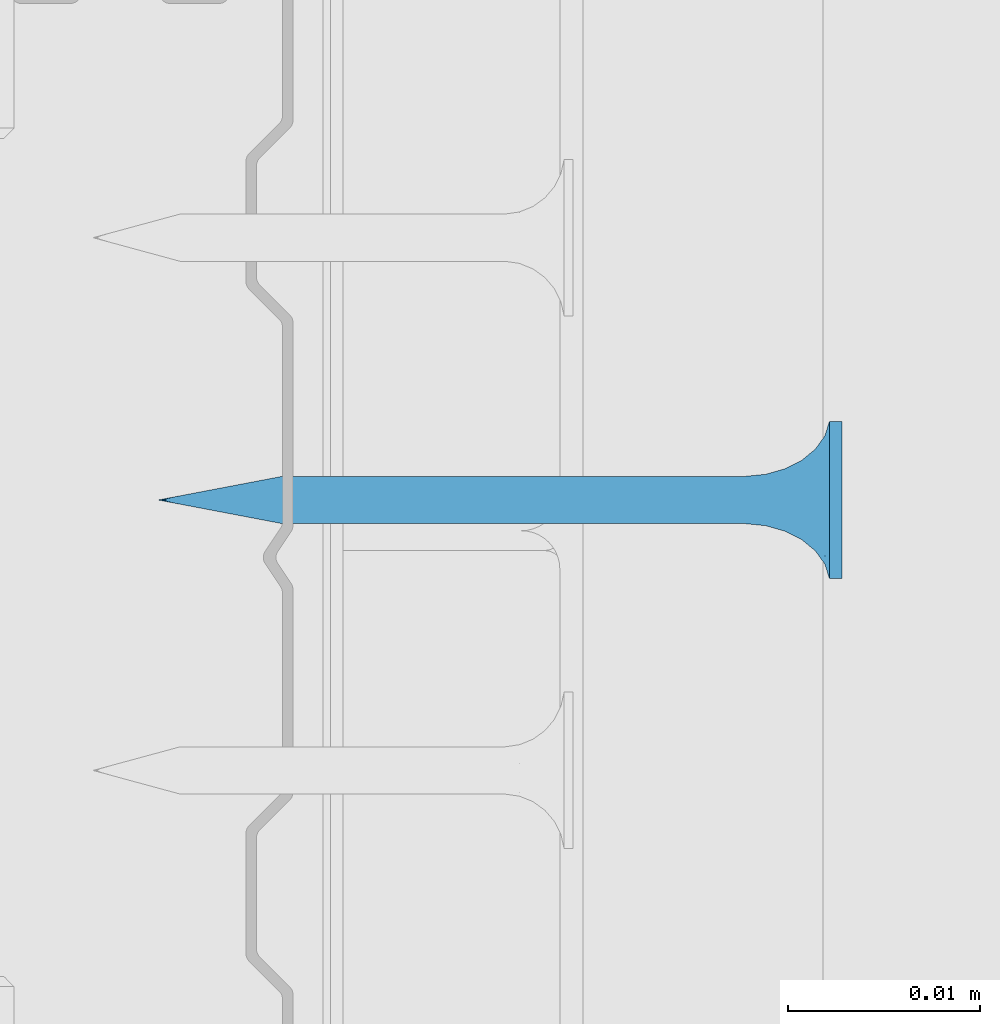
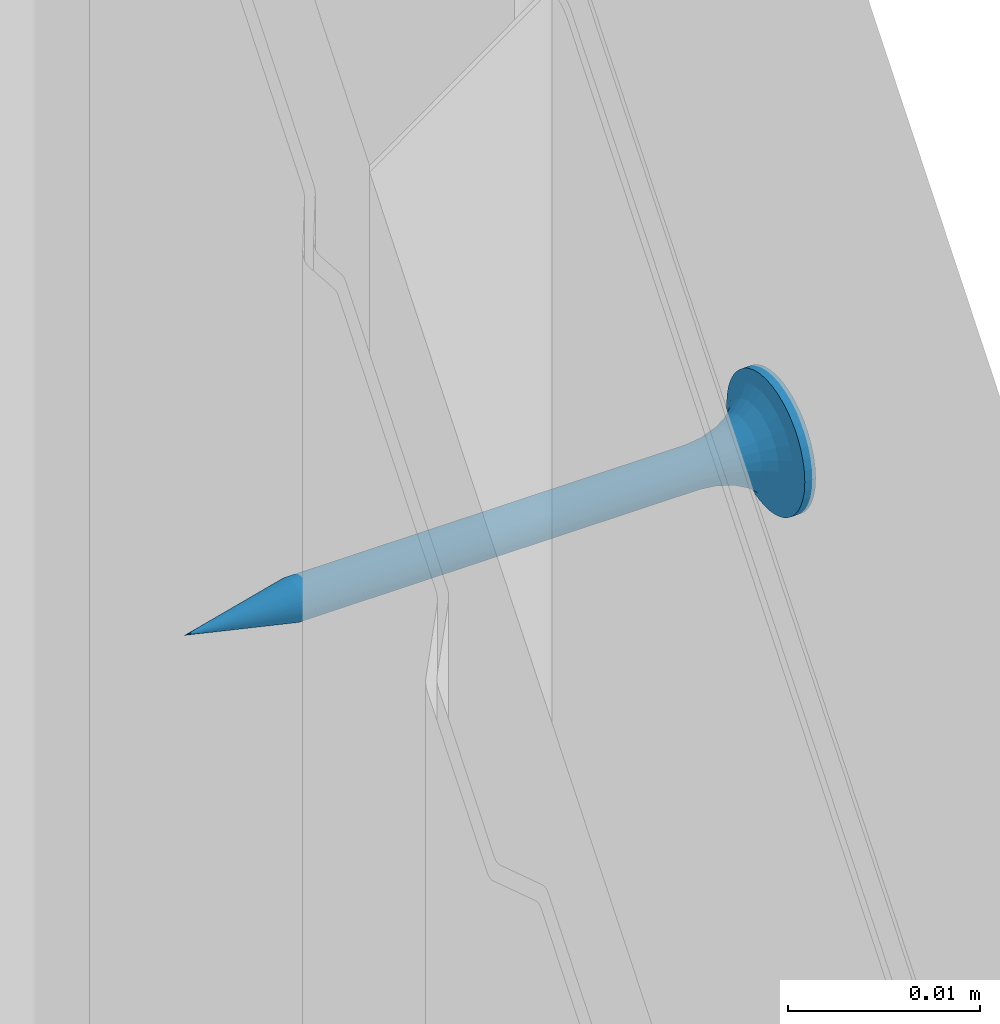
# One storey, part 16 of 62: 1 wall.
"""IFC2X3 building model written with IfcOpenShell, lengths in millimetres."""

from ifc_helpers import new_model, si_unit, frame, origin_with_axes, place, context, subcontext, project, spatial, faceted_brep, material, type_object, element, save


model = new_model("IFC2X3")

# Units and contexts
model_context = context("Model", 3, world=origin_with_axes())
body_context = subcontext(model_context, "Body", "Model", "MODEL_VIEW")
ifc_project = project(units=[si_unit("LENGTHUNIT", "METRE", prefix="MILLI"), si_unit("AREAUNIT", "SQUARE_METRE"), si_unit("VOLUMEUNIT", "CUBIC_METRE")], contexts=[model_context])

# Site, building, storey
site_placement = place(None, frame((2152.14102611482, -2015.0250894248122, 57.61556563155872), z_axis=(0.0, 0.0, 1.0), x_axis=(-1.1102230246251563e-16, 1.0, 0.0)))
site = spatial("IfcSite", under=ifc_project, at=site_placement, Name="Default Site", CompositionType="ELEMENT")
building_placement = place(site_placement, origin_with_axes())
building = spatial("IfcBuilding", under=site, at=building_placement, Name="Default Building", CompositionType="ELEMENT")
storey_placement = place(building_placement, origin_with_axes())
storey = spatial("IfcBuildingStorey", under=building, at=storey_placement, Name="Default Building Storey", CompositionType="ELEMENT", Elevation=57.61556563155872)

# Wall
ifc_material = material(Name="Default")
wall_type = type_object("IfcWallType", Name="Wkręt RIGIPS TN 35#44", PredefinedType="NOTDEFINED")
wall_placement = place(storey_placement, frame((2378.489176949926, 6748.439791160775, -146.93788946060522), z_axis=(0.0, 0.0, 1.0), x_axis=(1.0, 0.0, 0.0)))
element("IfcWall", 1, at=wall_placement, inside=storey, type_object=wall_type, material=ifc_material, Name="Wkręt RIGIPS TN 35", context=body_context, shape_type="Brep", body=[
    faceted_brep([(-141.48753293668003, -4832.598052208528, 555.1619773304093), (-141.48753293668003, -4833.259714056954, 555.1619773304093), (-141.5377465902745, -4833.259714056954, 555.8000000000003), (-141.5377465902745, -4832.598052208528, 555.8000000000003), (-141.33812900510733, -4832.598052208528, 554.5396649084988), (-141.33812900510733, -4833.259714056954, 554.5396649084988), (-141.09321328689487, -4832.598052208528, 553.948386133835), (-141.09321328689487, -4833.259714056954, 553.948386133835), (-140.75881656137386, -4832.598052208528, 553.4027002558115), (-140.75881656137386, -4833.259714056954, 553.4027002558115), (-140.34317265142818, -4833.259714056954, 552.9160436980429), (-140.45417279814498, -4832.598052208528, 553.0314906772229), (-139.8565160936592, -4833.259714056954, 552.5003997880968), (-140.1080097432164, -4832.598052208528, 552.6986613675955), (-139.72512626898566, -4832.598052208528, 552.4088260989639), (-139.31083021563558, -4833.259714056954, 552.1660030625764), (-139.31083021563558, -4832.598052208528, 552.1660030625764), (-138.71955144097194, -4833.259714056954, 551.9210873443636), (-138.87086516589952, -4832.598052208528, 551.9735585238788), (-138.41133029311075, -4832.598052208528, 551.8341602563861), (-138.0972390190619, -4833.259714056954, 551.7716834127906), (-137.9385961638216, -4832.598052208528, 551.7497405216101), (-137.45921634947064, -4833.259714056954, 551.7214697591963), (-137.45921634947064, -4832.598052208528, 551.7214697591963), (-136.82119367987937, -4832.598052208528, 551.7716834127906), (-136.82119367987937, -4833.259714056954, 551.7716834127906), (-136.19888125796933, -4832.598052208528, 551.9210873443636), (-136.19888125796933, -4833.259714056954, 551.9210873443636), (-135.6076024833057, -4832.598052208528, 552.1660030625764), (-135.6076024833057, -4833.259714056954, 552.1660030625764), (-135.06191660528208, -4832.598052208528, 552.5003997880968), (-135.06191660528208, -4833.259714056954, 552.5003997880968), (-134.57526004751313, -4832.598052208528, 552.9160436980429), (-134.57526004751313, -4833.259714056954, 552.9160436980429), (-134.1596161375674, -4832.598052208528, 553.4027002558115), (-134.1596161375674, -4833.259714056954, 553.4027002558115), (-133.8252194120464, -4832.598052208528, 553.948386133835), (-133.8252194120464, -4833.259714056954, 553.948386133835), (-133.58030369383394, -4832.598052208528, 554.5396649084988), (-133.58030369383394, -4833.259714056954, 554.5396649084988), (-133.3806861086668, -4833.259714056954, 555.8000000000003), (-133.3806861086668, -4832.598052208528, 555.8000000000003), (-133.43089976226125, -4832.598052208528, 556.4380226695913), (-133.43089976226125, -4833.259714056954, 556.4380226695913), (-133.43089976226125, -4833.259714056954, 555.1619773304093), (-133.43089976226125, -4832.598052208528, 555.1619773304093), (-133.58030369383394, -4832.598052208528, 557.0603350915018), (-133.58030369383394, -4833.259714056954, 557.0603350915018), (-133.8252194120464, -4832.598052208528, 557.6516138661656), (-133.8252194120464, -4833.259714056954, 557.6516138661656), (-134.1596161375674, -4832.598052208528, 558.1972997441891), (-134.1596161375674, -4833.259714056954, 558.1972997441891), (-134.57526004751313, -4832.598052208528, 558.6839563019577), (-134.57526004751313, -4833.259714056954, 558.6839563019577), (-135.06191660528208, -4832.598052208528, 559.0996002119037), (-135.06191660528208, -4833.259714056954, 559.0996002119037), (-135.6076024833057, -4832.598052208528, 559.4339969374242), (-135.6076024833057, -4833.259714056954, 559.4339969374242), (-136.19888125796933, -4832.598052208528, 559.678912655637), (-136.19888125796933, -4833.259714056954, 559.678912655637), (-136.82119367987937, -4832.598052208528, 559.82831658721), (-136.82119367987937, -4833.259714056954, 559.82831658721), (-137.45921634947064, -4832.598052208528, 559.8785302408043), (-137.45921634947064, -4833.259714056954, 559.8785302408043), (-138.0972390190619, -4832.598052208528, 559.82831658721), (-138.0972390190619, -4833.259714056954, 559.82831658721), (-138.71955144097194, -4832.598052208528, 559.678912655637), (-138.71955144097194, -4833.259714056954, 559.678912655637), (-139.31083021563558, -4832.598052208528, 559.4339969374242), (-139.31083021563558, -4833.259714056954, 559.4339969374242), (-139.8565160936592, -4832.598052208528, 559.0996002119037), (-139.8565160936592, -4833.259714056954, 559.0996002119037), (-140.34317265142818, -4832.598052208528, 558.6839563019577), (-140.34317265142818, -4833.259714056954, 558.6839563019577), (-140.75881656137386, -4832.598052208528, 558.1972997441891), (-140.75881656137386, -4833.259714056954, 558.1972997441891), (-141.09321328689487, -4832.598052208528, 557.6516138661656), (-141.09321328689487, -4833.259714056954, 557.6516138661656), (-141.33812900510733, -4832.598052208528, 557.0603350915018), (-141.33812900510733, -4833.259714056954, 557.0603350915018), (-141.48753293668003, -4832.598052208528, 556.4380226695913), (-141.48753293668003, -4833.259714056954, 556.4380226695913), (-137.65172779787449, -4828.2062944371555, 554.5845305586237), (-137.45921634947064, -4828.2062944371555, 554.5693795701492), (-137.8060615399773, -4829.281368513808, 554.5055561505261), (-137.45921634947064, -4829.281368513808, 554.4598930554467), (-137.83949898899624, -4828.2062944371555, 554.6296104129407), (-138.12926982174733, -4829.281368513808, 554.6394333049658), (-138.01790634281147, -4828.2062944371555, 554.7035091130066), (-138.1825568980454, -4828.2062944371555, 554.8044072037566), (-138.40681506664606, -4829.281368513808, 554.8524012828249), (-138.3293964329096, -4828.2062944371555, 554.9298199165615), (-138.45480914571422, -4828.2062944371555, 555.0766594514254), (-138.6197830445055, -4829.281368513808, 555.1299465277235), (-138.5557072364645, -4828.2062944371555, 555.2413100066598), (-138.753660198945, -4829.281368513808, 555.4531548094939), (-138.62960593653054, -4828.2062944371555, 555.4197173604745), (-138.67468579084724, -4828.2062944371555, 555.6074885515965), (-138.79932329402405, -4829.281368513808, 555.7999999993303), (-138.68983677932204, -4828.2062944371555, 555.8000000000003), (-138.67468579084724, -4828.2062944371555, 555.9925114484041), (-138.753660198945, -4829.281368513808, 556.1468451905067), (-138.62960593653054, -4828.2062944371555, 556.1802826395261), (-138.6197830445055, -4829.281368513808, 556.4700534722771), (-138.5557072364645, -4828.2062944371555, 556.3586899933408), (-138.45480914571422, -4828.2062944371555, 556.5233405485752), (-138.40681506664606, -4829.281368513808, 556.7475987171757), (-138.3293964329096, -4828.2062944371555, 556.670180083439), (-138.1825568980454, -4828.2062944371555, 556.795592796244), (-138.12926982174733, -4829.281368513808, 556.9605666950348), (-138.01790634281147, -4828.2062944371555, 556.896490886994), (-137.8060615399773, -4829.281368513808, 557.0944438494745), (-137.83949898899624, -4828.2062944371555, 556.9703895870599), (-137.65172779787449, -4828.2062944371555, 557.0154694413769), (-137.45921634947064, -4829.281368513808, 557.1401069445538), (-137.45921634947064, -4828.2062944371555, 557.0306204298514), (-137.26670490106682, -4828.2062944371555, 557.0154694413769), (-137.11237115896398, -4829.281368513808, 557.0944438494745), (-137.07893370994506, -4828.2062944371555, 556.9703895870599), (-136.78916287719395, -4829.281368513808, 556.9605666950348), (-136.9005263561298, -4828.2062944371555, 556.896490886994), (-136.7358758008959, -4828.2062944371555, 556.795592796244), (-136.5116176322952, -4829.281368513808, 556.7475987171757), (-136.58903626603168, -4828.2062944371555, 556.670180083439), (-136.46362355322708, -4828.2062944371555, 556.5233405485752), (-136.2986496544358, -4829.281368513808, 556.4700534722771), (-136.36272546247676, -4828.2062944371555, 556.3586899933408), (-136.16477249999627, -4829.281368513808, 556.1468451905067), (-136.28882676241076, -4828.2062944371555, 556.1802826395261), (-136.24374690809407, -4828.2062944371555, 555.9925114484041), (-136.11910940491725, -4829.281368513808, 555.7999999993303), (-136.22859591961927, -4828.2062944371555, 555.8000000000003), (-136.24374690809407, -4828.2062944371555, 555.6074885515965), (-136.16477249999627, -4829.281368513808, 555.4531548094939), (-136.28882676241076, -4828.2062944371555, 555.4197173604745), (-136.2986496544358, -4829.281368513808, 555.1299465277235), (-136.36272546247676, -4828.2062944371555, 555.2413100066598), (-136.46362355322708, -4828.2062944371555, 555.0766594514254), (-136.5116176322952, -4829.281368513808, 554.8524012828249), (-136.58903626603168, -4828.2062944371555, 554.9298199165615), (-136.7358758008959, -4828.2062944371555, 554.8044072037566), (-136.78916287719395, -4829.281368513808, 554.6394333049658), (-136.9005263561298, -4828.2062944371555, 554.7035091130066), (-137.11237115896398, -4829.281368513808, 554.5055561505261), (-137.07893370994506, -4828.2062944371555, 554.6296104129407), (-137.26670490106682, -4828.2062944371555, 554.5845305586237), (-137.45921634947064, -4830.288222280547, 554.1737111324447), (-137.88013087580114, -4830.288222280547, 554.2291255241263), (-138.2723607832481, -4830.288222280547, 554.3915925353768), (-138.60917621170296, -4830.288222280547, 554.6500401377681), (-138.8676238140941, -4830.288222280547, 554.9868555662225), (-139.03009082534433, -4830.288222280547, 555.37908547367), (-139.08550521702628, -4830.288222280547, 555.7999999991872), (-139.03009082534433, -4830.288222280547, 556.2209145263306), (-138.8676238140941, -4830.288222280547, 556.6131444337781), (-138.60917621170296, -4830.288222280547, 556.9499598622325), (-138.2723607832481, -4830.288222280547, 557.2084074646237), (-137.88013087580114, -4830.288222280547, 557.3708744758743), (-137.45921634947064, -4830.288222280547, 557.4262888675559), (-137.03830182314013, -4830.288222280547, 557.3708744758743), (-136.64607191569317, -4830.288222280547, 557.2084074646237), (-136.30925648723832, -4830.288222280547, 556.9499598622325), (-136.05080888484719, -4830.288222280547, 556.6131444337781), (-135.88834187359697, -4830.288222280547, 556.2209145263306), (-135.832927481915, -4830.288222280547, 555.7999999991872), (-135.88834187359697, -4830.288222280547, 555.37908547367), (-136.05080888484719, -4830.288222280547, 554.9868555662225), (-136.30925648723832, -4830.288222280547, 554.6500401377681), (-136.64607191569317, -4830.288222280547, 554.3915925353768), (-137.03830182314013, -4830.288222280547, 554.2291255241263), (-137.45921634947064, -4831.168773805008, 553.7273430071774), (-137.99565943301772, -4831.168773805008, 553.7979670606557), (-138.49554484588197, -4831.168773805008, 554.0050264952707), (-138.92480608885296, -4831.168773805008, 554.334410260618), (-139.25418985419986, -4831.168773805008, 554.7636715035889), (-139.46124928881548, -4831.168773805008, 555.2635569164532), (-139.53187334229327, -4831.168773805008, 555.7999999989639), (-139.46124928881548, -4831.168773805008, 556.3364430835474), (-139.25418985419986, -4831.168773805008, 556.8363284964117), (-138.92480608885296, -4831.168773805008, 557.2655897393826), (-138.49554484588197, -4831.168773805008, 557.5949735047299), (-137.99565943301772, -4831.168773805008, 557.8020329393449), (-137.45921634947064, -4831.168773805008, 557.8726569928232), (-136.92277326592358, -4831.168773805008, 557.8020329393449), (-136.42288785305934, -4831.168773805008, 557.5949735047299), (-135.9936266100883, -4831.168773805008, 557.2655897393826), (-135.6642428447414, -4831.168773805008, 556.8363284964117), (-135.45718341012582, -4831.168773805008, 556.3364430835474), (-135.386559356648, -4831.168773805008, 555.7999999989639), (-135.45718341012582, -4831.168773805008, 555.2635569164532), (-135.6642428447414, -4831.168773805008, 554.7636715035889), (-135.9936266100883, -4831.168773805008, 554.334410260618), (-136.42288785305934, -4831.168773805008, 554.0050264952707), (-136.92277326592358, -4831.168773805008, 553.7979670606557), (-137.45921634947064, -4831.872222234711, 553.1465392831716), (-138.14598252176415, -4831.872222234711, 553.2369539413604), (-138.78594670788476, -4831.872222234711, 553.5020355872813), (-139.33549641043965, -4831.872222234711, 553.923719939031), (-139.75718076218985, -4831.872222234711, 554.473269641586), (-140.02226240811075, -4831.872222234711, 555.1132338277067), (-140.11267706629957, -4831.872222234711, 555.7999999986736), (-140.02226240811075, -4831.872222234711, 556.4867661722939), (-139.75718076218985, -4831.872222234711, 557.1267303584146), (-139.33549641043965, -4831.872222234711, 557.6762800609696), (-138.78594670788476, -4831.872222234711, 558.0979644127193), (-138.14598252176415, -4831.872222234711, 558.3630460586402), (-137.45921634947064, -4831.872222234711, 558.453460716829), (-136.77245017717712, -4831.872222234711, 558.3630460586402), (-136.13248599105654, -4831.872222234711, 558.0979644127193), (-135.58293628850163, -4831.872222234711, 557.6762800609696), (-135.16125193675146, -4831.872222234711, 557.1267303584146), (-134.89617029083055, -4831.872222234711, 556.4867661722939), (-134.8057556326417, -4831.872222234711, 555.7999999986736), (-134.89617029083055, -4831.872222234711, 555.1132338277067), (-135.16125193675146, -4831.872222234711, 554.473269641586), (-135.58293628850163, -4831.872222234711, 553.923719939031), (-136.13248599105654, -4831.872222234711, 553.5020355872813), (-136.77245017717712, -4831.872222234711, 553.2369539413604), (-137.45921634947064, -4832.357990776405, 552.4648055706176), (-138.3224281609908, -4832.357990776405, 552.5784495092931), (-139.12681356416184, -4832.357990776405, 552.9116369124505), (-139.8175549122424, -4832.357990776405, 553.4416614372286), (-140.34757943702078, -4832.357990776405, 554.132402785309), (-140.680766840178, -4832.357990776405, 554.9367881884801), (-140.79441077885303, -4832.357990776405, 555.7999999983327), (-140.680766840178, -4832.357990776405, 556.6632118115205), (-140.34757943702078, -4832.357990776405, 557.4675972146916), (-139.8175549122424, -4832.357990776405, 558.158338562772), (-139.12681356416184, -4832.357990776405, 558.6883630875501), (-138.3224281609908, -4832.357990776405, 559.0215504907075), (-137.45921634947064, -4832.357990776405, 559.135194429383), (-136.5960045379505, -4832.357990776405, 559.0215504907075), (-135.79161913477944, -4832.357990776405, 558.6883630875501), (-135.10087778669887, -4832.357990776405, 558.158338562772), (-134.5708532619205, -4832.357990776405, 557.4675972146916), (-134.23766585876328, -4832.357990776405, 556.6632118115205), (-134.12402192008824, -4832.357990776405, 555.7999999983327), (-134.23766585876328, -4832.357990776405, 554.9367881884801), (-134.5708532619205, -4832.357990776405, 554.132402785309), (-135.10087778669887, -4832.357990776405, 553.4416614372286), (-135.79161913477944, -4832.357990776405, 552.9116369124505), (-136.5960045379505, -4832.357990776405, 552.5784495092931), (-138.67468579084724, -4804.093757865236, 555.6074885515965), (-138.68983677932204, -4804.093757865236, 555.8000000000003), (-138.62960593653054, -4804.093757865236, 555.4197173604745), (-138.5557072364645, -4804.093757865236, 555.2413100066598), (-138.45480914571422, -4804.093757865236, 555.0766594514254), (-138.3293964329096, -4804.093757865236, 554.9298199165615), (-138.1825568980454, -4804.093757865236, 554.8044072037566), (-138.01790634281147, -4804.093757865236, 554.7035091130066), (-137.83949898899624, -4804.093757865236, 554.6296104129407), (-137.65172779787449, -4804.093757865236, 554.5845305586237), (-137.45921634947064, -4804.093757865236, 554.5693795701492), (-137.26670490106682, -4804.093757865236, 554.5845305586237), (-137.07893370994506, -4804.093757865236, 554.6296104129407), (-136.9005263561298, -4804.093757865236, 554.7035091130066), (-136.7358758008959, -4804.093757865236, 554.8044072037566), (-136.58903626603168, -4804.093757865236, 554.9298199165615), (-136.46362355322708, -4804.093757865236, 555.0766594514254), (-136.36272546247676, -4804.093757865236, 555.2413100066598), (-136.28882676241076, -4804.093757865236, 555.4197173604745), (-136.22859591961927, -4804.093757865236, 555.8000000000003), (-136.24374690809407, -4804.093757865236, 555.9925114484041), (-136.24374690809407, -4804.093757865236, 555.6074885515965), (-136.28882676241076, -4804.093757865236, 556.1802826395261), (-136.36272546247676, -4804.093757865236, 556.3586899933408), (-136.46362355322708, -4804.093757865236, 556.5233405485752), (-136.58903626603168, -4804.093757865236, 556.670180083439), (-136.7358758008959, -4804.093757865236, 556.795592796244), (-136.9005263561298, -4804.093757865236, 556.896490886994), (-137.07893370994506, -4804.093757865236, 556.9703895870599), (-137.26670490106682, -4804.093757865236, 557.0154694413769), (-137.45921634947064, -4804.093757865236, 557.0306204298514), (-137.65172779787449, -4804.093757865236, 557.0154694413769), (-137.83949898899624, -4804.093757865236, 556.9703895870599), (-138.01790634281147, -4804.093757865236, 556.896490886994), (-138.1825568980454, -4804.093757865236, 556.795592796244), (-138.3293964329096, -4804.093757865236, 556.670180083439), (-138.45480914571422, -4804.093757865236, 556.5233405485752), (-138.5557072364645, -4804.093757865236, 556.3586899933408), (-138.62960593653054, -4804.093757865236, 556.1802826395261), (-138.67468579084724, -4804.093757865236, 555.9925114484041), (-137.45921634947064, -4797.627062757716, 555.8000000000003), (-139.95921629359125, -4833.259714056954, 555.2999999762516), (-139.95921629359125, -4833.259714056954, 556.300000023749), (-137.95921637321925, -4833.259714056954, 556.300000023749), (-137.95921637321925, -4833.259714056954, 558.2999999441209), (-136.95921632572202, -4833.259714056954, 558.2999999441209), (-136.95921632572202, -4833.259714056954, 556.300000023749), (-134.95921640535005, -4833.259714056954, 556.300000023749), (-134.95921640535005, -4833.259714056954, 555.2999999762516), (-136.95921632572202, -4833.259714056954, 555.2999999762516), (-136.95921632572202, -4833.259714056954, 553.3000000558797), (-137.95921637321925, -4833.259714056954, 553.3000000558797), (-137.95921637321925, -4833.259714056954, 555.2999999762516), (-136.95921632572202, -4832.888378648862, 558.2999999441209), (-137.95921637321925, -4832.888378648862, 558.2999999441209), (-137.95921637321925, -4832.888378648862, 556.300000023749), (-139.95921629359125, -4832.888378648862, 556.300000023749), (-139.95921629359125, -4832.888378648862, 555.2999999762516), (-137.95921637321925, -4832.888378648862, 555.2999999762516), (-137.95921637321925, -4832.888378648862, 553.3000000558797), (-136.95921632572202, -4832.888378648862, 553.3000000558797), (-136.95921632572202, -4832.888378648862, 555.2999999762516), (-134.95921640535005, -4832.888378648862, 555.2999999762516), (-134.95921640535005, -4832.888378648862, 556.300000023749), (-136.95921632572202, -4832.888378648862, 556.300000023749)], [[[0, 1, 2, 3]], [[1, 0, 4, 5]], [[5, 4, 6, 7]], [[8, 9, 7, 6]], [[8, 10, 9]], [[8, 11, 10]], [[12, 11, 13]], [[12, 10, 11]], [[13, 14, 12]], [[14, 15, 12]], [[14, 16, 15]], [[17, 16, 18]], [[17, 15, 16]], [[18, 19, 17]], [[20, 19, 21]], [[20, 17, 19]], [[21, 22, 20]], [[21, 23, 22]], [[24, 25, 22, 23]], [[25, 24, 26, 27]], [[27, 26, 28, 29]], [[30, 31, 29, 28]], [[31, 30, 32, 33]], [[34, 35, 33, 32]], [[35, 34, 36, 37]], [[37, 36, 38, 39]], [[40, 41, 42, 43]], [[44, 45, 41, 40]], [[45, 44, 39, 38]], [[43, 42, 46, 47]], [[47, 46, 48, 49]], [[50, 51, 49, 48]], [[51, 50, 52, 53]], [[54, 55, 53, 52]], [[55, 54, 56, 57]], [[57, 56, 58, 59]], [[60, 61, 59, 58]], [[61, 60, 62, 63]], [[64, 65, 63, 62]], [[65, 64, 66, 67]], [[67, 66, 68, 69]], [[70, 71, 69, 68]], [[71, 70, 72, 73]], [[74, 75, 73, 72]], [[75, 74, 76, 77]], [[77, 76, 78, 79]], [[80, 81, 79, 78]], [[81, 80, 3, 2]], [[82, 83, 84]], [[83, 85, 84]], [[84, 86, 82]], [[84, 87, 88, 86]], [[89, 88, 87]], [[87, 90, 89]], [[90, 91, 89]], [[92, 91, 93]], [[91, 90, 93]], [[93, 94, 92]], [[93, 95, 96, 94]], [[97, 96, 95]], [[95, 98, 97]], [[98, 99, 97]], [[100, 99, 101]], [[99, 98, 101]], [[101, 102, 100]], [[101, 103, 104, 102]], [[105, 104, 103]], [[103, 106, 105]], [[106, 107, 105]], [[108, 107, 109]], [[107, 106, 109]], [[109, 110, 108]], [[109, 111, 112, 110]], [[113, 112, 111]], [[111, 114, 113]], [[114, 115, 113]], [[116, 115, 117]], [[115, 114, 117]], [[117, 118, 116]], [[117, 119, 120, 118]], [[121, 120, 119]], [[119, 122, 121]], [[122, 123, 121]], [[124, 123, 125]], [[123, 122, 125]], [[125, 126, 124]], [[125, 127, 128, 126]], [[129, 128, 127]], [[127, 130, 129]], [[130, 131, 129]], [[132, 131, 133]], [[131, 130, 133]], [[133, 134, 132]], [[133, 135, 136, 134]], [[137, 136, 135]], [[135, 138, 137]], [[138, 139, 137]], [[140, 139, 141]], [[139, 138, 141]], [[141, 142, 140]], [[141, 143, 144, 142]], [[145, 144, 143]], [[143, 85, 145]], [[85, 83, 145]], [[146, 147, 84, 85]], [[84, 147, 148, 87]], [[87, 148, 149, 90]], [[90, 149, 150, 93]], [[93, 150, 151, 95]], [[95, 151, 152, 98]], [[98, 152, 153, 101]], [[101, 153, 154, 103]], [[103, 154, 155, 106]], [[106, 155, 156, 109]], [[109, 156, 157, 111]], [[111, 157, 158, 114]], [[114, 158, 159, 117]], [[117, 159, 160, 119]], [[119, 160, 161, 122]], [[122, 161, 162, 125]], [[125, 162, 163, 127]], [[127, 163, 164, 130]], [[130, 164, 165, 133]], [[133, 165, 166, 135]], [[135, 166, 167, 138]], [[138, 167, 168, 141]], [[141, 168, 169, 143]], [[143, 169, 146, 85]], [[170, 171, 147, 146]], [[147, 171, 172, 148]], [[148, 172, 173, 149]], [[149, 173, 174, 150]], [[150, 174, 175, 151]], [[151, 175, 176, 152]], [[152, 176, 177, 153]], [[153, 177, 178, 154]], [[154, 178, 179, 155]], [[155, 179, 180, 156]], [[156, 180, 181, 157]], [[157, 181, 182, 158]], [[158, 182, 183, 159]], [[159, 183, 184, 160]], [[160, 184, 185, 161]], [[161, 185, 186, 162]], [[162, 186, 187, 163]], [[163, 187, 188, 164]], [[164, 188, 189, 165]], [[165, 189, 190, 166]], [[166, 190, 191, 167]], [[167, 191, 192, 168]], [[168, 192, 193, 169]], [[169, 193, 170, 146]], [[194, 195, 171, 170]], [[171, 195, 196, 172]], [[172, 196, 197, 173]], [[173, 197, 198, 174]], [[174, 198, 199, 175]], [[175, 199, 200, 176]], [[176, 200, 201, 177]], [[177, 201, 202, 178]], [[178, 202, 203, 179]], [[179, 203, 204, 180]], [[180, 204, 205, 181]], [[181, 205, 206, 182]], [[182, 206, 207, 183]], [[183, 207, 208, 184]], [[184, 208, 209, 185]], [[185, 209, 210, 186]], [[186, 210, 211, 187]], [[187, 211, 212, 188]], [[188, 212, 213, 189]], [[189, 213, 214, 190]], [[190, 214, 215, 191]], [[191, 215, 216, 192]], [[192, 216, 217, 193]], [[193, 217, 194, 170]], [[21, 19, 218]], [[19, 219, 218]], [[218, 23, 21]], [[218, 219, 195, 194]], [[18, 16, 219]], [[16, 220, 219]], [[219, 19, 18]], [[195, 219, 220, 196]], [[13, 11, 221]], [[14, 13, 220]], [[13, 221, 220]], [[220, 16, 14]], [[196, 220, 221, 197]], [[8, 6, 222]], [[222, 221, 8]], [[221, 11, 8]], [[197, 221, 222, 198]], [[4, 223, 222, 6]], [[198, 222, 223, 199]], [[0, 3, 223]], [[3, 224, 223]], [[223, 4, 0]], [[199, 223, 224, 200]], [[80, 78, 225]], [[225, 224, 80]], [[224, 3, 80]], [[200, 224, 225, 201]], [[78, 76, 226, 225]], [[201, 225, 226, 202]], [[74, 72, 226]], [[72, 227, 226]], [[226, 76, 74]], [[202, 226, 227, 203]], [[70, 68, 228]], [[228, 227, 70]], [[227, 72, 70]], [[203, 227, 228, 204]], [[68, 66, 229, 228]], [[204, 228, 229, 205]], [[64, 62, 229]], [[62, 230, 229]], [[229, 66, 64]], [[205, 229, 230, 206]], [[60, 58, 231]], [[231, 230, 60]], [[230, 62, 60]], [[206, 230, 231, 207]], [[58, 56, 232, 231]], [[207, 231, 232, 208]], [[54, 52, 232]], [[52, 233, 232]], [[232, 56, 54]], [[208, 232, 233, 209]], [[50, 48, 234]], [[234, 233, 50]], [[233, 52, 50]], [[209, 233, 234, 210]], [[48, 46, 235, 234]], [[210, 234, 235, 211]], [[42, 41, 235]], [[41, 236, 235]], [[235, 46, 42]], [[211, 235, 236, 212]], [[45, 38, 237]], [[237, 236, 45]], [[236, 41, 45]], [[212, 236, 237, 213]], [[36, 238, 237, 38]], [[213, 237, 238, 214]], [[34, 32, 238]], [[32, 239, 238]], [[238, 36, 34]], [[214, 238, 239, 215]], [[30, 28, 240]], [[240, 239, 30]], [[239, 32, 30]], [[215, 239, 240, 216]], [[26, 241, 240, 28]], [[216, 240, 241, 217]], [[217, 241, 218, 194]], [[24, 23, 241]], [[23, 218, 241]], [[241, 26, 24]], [[242, 97, 99, 243]], [[97, 242, 244, 96]], [[96, 244, 245, 94]], [[246, 92, 94, 245]], [[92, 246, 247, 91]], [[248, 89, 91, 247]], [[89, 248, 249, 88]], [[88, 249, 250, 86]], [[251, 82, 86, 250]], [[82, 251, 252, 83]], [[253, 145, 83, 252]], [[145, 253, 254, 144]], [[144, 254, 255, 142]], [[256, 140, 142, 255]], [[140, 256, 257, 139]], [[258, 137, 139, 257]], [[137, 258, 259, 136]], [[136, 259, 260, 134]], [[131, 261, 262, 129]], [[132, 263, 261, 131]], [[263, 132, 134, 260]], [[129, 262, 264, 128]], [[128, 264, 265, 126]], [[266, 124, 126, 265]], [[124, 266, 267, 123]], [[268, 121, 123, 267]], [[121, 268, 269, 120]], [[120, 269, 270, 118]], [[271, 116, 118, 270]], [[116, 271, 272, 115]], [[273, 113, 115, 272]], [[113, 273, 274, 112]], [[112, 274, 275, 110]], [[276, 108, 110, 275]], [[108, 276, 277, 107]], [[278, 105, 107, 277]], [[105, 278, 279, 104]], [[104, 279, 280, 102]], [[281, 100, 102, 280]], [[100, 281, 243, 99]], [[282, 244, 242]], [[242, 243, 282]], [[282, 245, 244]], [[282, 247, 246]], [[246, 245, 282]], [[282, 249, 248]], [[248, 247, 282]], [[282, 250, 249]], [[282, 252, 251]], [[251, 250, 282]], [[282, 254, 253]], [[253, 252, 282]], [[282, 255, 254]], [[282, 257, 256]], [[256, 255, 282]], [[282, 259, 258]], [[258, 257, 282]], [[282, 260, 259]], [[282, 261, 263]], [[263, 260, 282]], [[282, 264, 262]], [[262, 261, 282]], [[282, 265, 264]], [[282, 267, 266]], [[266, 265, 282]], [[282, 269, 268]], [[268, 267, 282]], [[282, 270, 269]], [[282, 272, 271]], [[271, 270, 282]], [[282, 274, 273]], [[273, 272, 282]], [[282, 275, 274]], [[282, 277, 276]], [[276, 275, 282]], [[282, 279, 278]], [[278, 277, 282]], [[282, 280, 279]], [[282, 243, 281]], [[281, 280, 282]], [[75, 77, 79, 81, 2, 1, 5, 7, 9, 10, 12, 15, 17, 20, 22, 25, 27, 29, 31, 33, 35, 37, 39, 44, 40, 43, 47, 49, 51, 53, 55, 57, 59, 61, 63, 65, 67, 69, 71, 73], [283, 284, 285, 286, 287, 288, 289, 290, 291, 292, 293, 294]], [[295, 296, 297, 298, 299, 300, 301, 302, 303, 304, 305, 306]], [[303, 291, 290, 304]], [[304, 290, 289, 305]], [[305, 289, 288, 306]], [[306, 288, 287, 295]], [[295, 287, 286, 296]], [[296, 286, 285, 297]], [[297, 285, 284, 298]], [[298, 284, 283, 299]], [[299, 283, 294, 300]], [[300, 294, 293, 301]], [[301, 293, 292, 302]], [[302, 292, 291, 303]]]),
])

save(model, "model.ifc")
